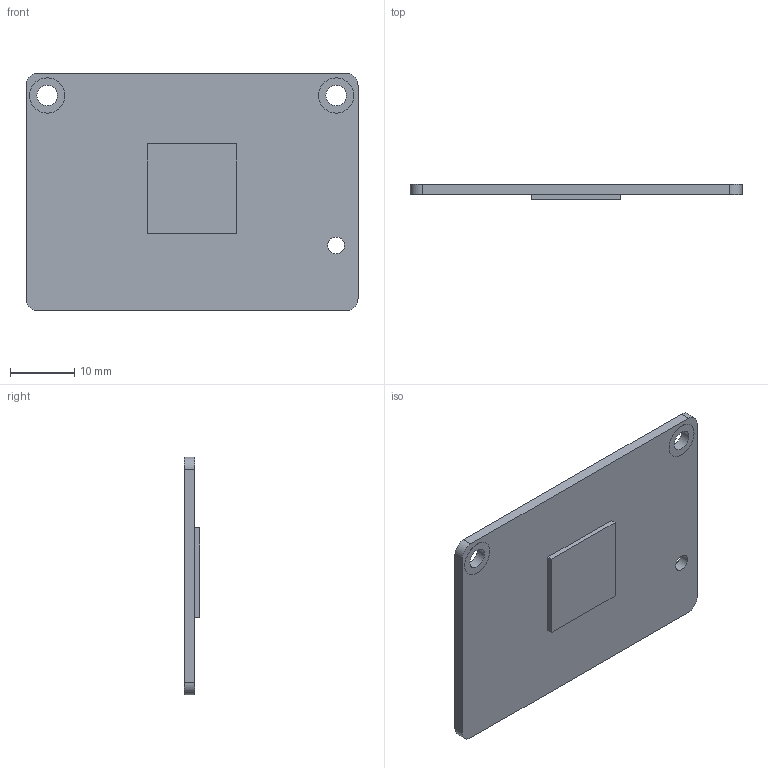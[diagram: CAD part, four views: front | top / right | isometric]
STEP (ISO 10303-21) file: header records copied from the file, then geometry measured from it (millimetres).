
FILE_DESCRIPTION(('FreeCAD Model'),'2;1');
FILE_NAME('Open CASCADE Shape Model','2024-09-14T13:39:11',(''),(''), 'Open CASCADE STEP processor 7.7','FreeCAD','Unknown');
FILE_SCHEMA(('AUTOMOTIVE_DESIGN { 1 0 10303 214 1 1 1 1 }'));
Length unit declared in the file: millimetre
Products named in the file (1): Edge
Bounding box: 51.7 x 2.4 x 37 mm (x, y, z)
Volume: 3178.6 mm3; surface area: 4146 mm2
Topology: 1 solids, 1 shells, 26 faces, 57 edges, 38 vertices
Faces by surface type: plane 15, cylinder 11
Full cylindrical faces by diameter (mm): 2.6 x1, 3.2 x2, 5.5 x4
Entity records: 972 total; most frequent: DIRECTION 133, CARTESIAN_POINT 122, ORIENTED_EDGE 114, EDGE_CURVE 57, AXIS2_PLACEMENT_3D 49, VERTEX_POINT 38, FACE_BOUND 37, EDGE_LOOP 37
